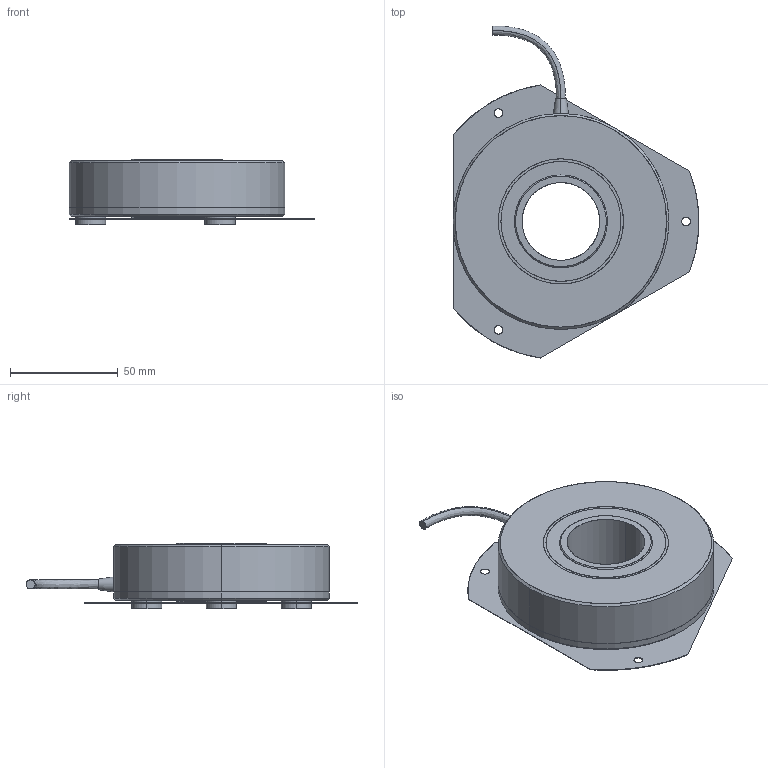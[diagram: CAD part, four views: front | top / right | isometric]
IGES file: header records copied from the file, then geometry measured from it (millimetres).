
Start section: SolidWorks IGES file using analytic representation for surfaces
Bounding box: 114 x 153.87 x 30.2 mm (x, y, z)
Surface area: 61963.5 mm2 (no closed solid volume)
Topology: 0 solids, 0 shells, 191 faces, 4032 edges, 4032 vertices
Faces by surface type: revolution 120, bspline 71
